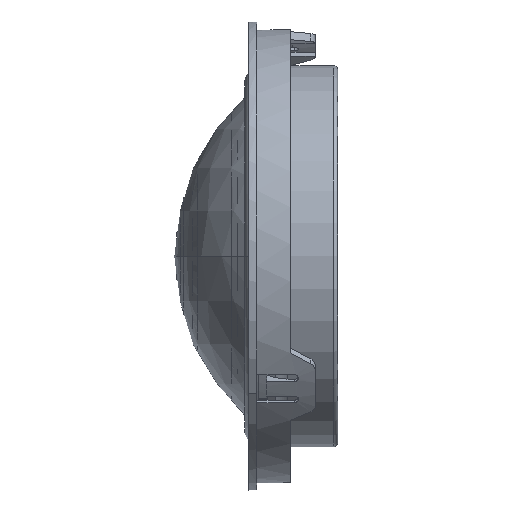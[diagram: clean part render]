
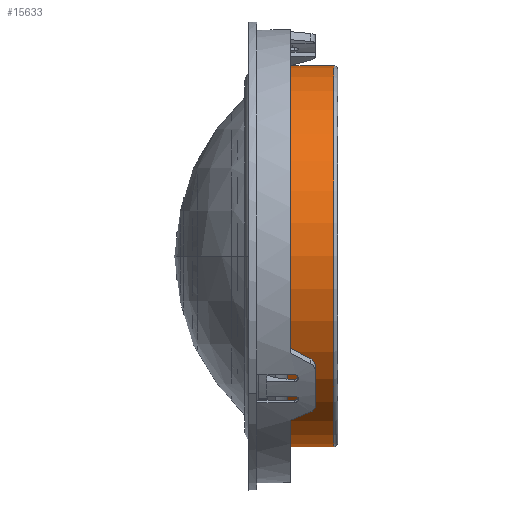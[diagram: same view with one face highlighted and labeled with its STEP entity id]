
A CAD part, left-side view. The second image highlights one B-rep face of the part: STEP entity #15633.
In plain terms, the highlighted cylindrical face has radius 45.85 mm (diameter 91.7 mm), a partial arc.
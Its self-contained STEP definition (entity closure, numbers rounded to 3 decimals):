
#52 = ORIENTED_EDGE ( 'NONE', *, *, #16705, .T. ) ;
#117 = AXIS2_PLACEMENT_3D ( 'NONE', #3924, #9311, #6710 ) ;
#576 = EDGE_LOOP ( 'NONE', ( #11556, #10840, #52, #14606 ) ) ;
#632 = CARTESIAN_POINT ( 'NONE',  ( 0., 1., 45.85 ) ) ;
#1058 = DIRECTION ( 'NONE',  ( 0., 0., 1. ) ) ;
#1531 = VERTEX_POINT ( 'NONE', #3994 ) ;
#1560 = CARTESIAN_POINT ( 'NONE',  ( 0., 12., -45.85 ) ) ;
#2329 = CIRCLE ( 'NONE', #2861, 45.85 ) ;
#2704 = CARTESIAN_POINT ( 'NONE',  ( 0., 12., 45.85 ) ) ;
#2861 = AXIS2_PLACEMENT_3D ( 'NONE', #8991, #8905, #1058 ) ;
#3479 = VERTEX_POINT ( 'NONE', #632 ) ;
#3816 = VERTEX_POINT ( 'NONE', #2704 ) ;
#3924 = CARTESIAN_POINT ( 'NONE',  ( 0., 30.203, 0. ) ) ;
#3994 = CARTESIAN_POINT ( 'NONE',  ( 0., 1., -45.85 ) ) ;
#4213 = DIRECTION ( 'NONE',  ( 0., 1., 0. ) ) ;
#5626 = EDGE_CURVE ( 'NONE', #1531, #6965, #10209, .T. ) ;
#6017 = DIRECTION ( 'NONE',  ( 0., 1., 0. ) ) ;
#6710 = DIRECTION ( 'NONE',  ( 0., 0., 1. ) ) ;
#6965 = VERTEX_POINT ( 'NONE', #1560 ) ;
#7139 = VECTOR ( 'NONE', #4213, 1000. ) ;
#7286 = AXIS2_PLACEMENT_3D ( 'NONE', #14895, #6017, #16350 ) ;
#8420 = CIRCLE ( 'NONE', #7286, 45.85 ) ;
#8529 = EDGE_CURVE ( 'NONE', #6965, #3816, #8420, .T. ) ;
#8846 = DIRECTION ( 'NONE',  ( 0., 1., 0. ) ) ;
#8905 = DIRECTION ( 'NONE',  ( 0., 1., 0. ) ) ;
#8991 = CARTESIAN_POINT ( 'NONE',  ( 0., 1., 0. ) ) ;
#9311 = DIRECTION ( 'NONE',  ( 0., 1., 0. ) ) ;
#9358 = CARTESIAN_POINT ( 'NONE',  ( 0., 30.203, 45.85 ) ) ;
#10209 = LINE ( 'NONE', #15364, #15728 ) ;
#10840 = ORIENTED_EDGE ( 'NONE', *, *, #13738, .T. ) ;
#11556 = ORIENTED_EDGE ( 'NONE', *, *, #5626, .F. ) ;
#13159 = LINE ( 'NONE', #9358, #7139 ) ;
#13738 = EDGE_CURVE ( 'NONE', #1531, #3479, #2329, .T. ) ;
#14129 = CYLINDRICAL_SURFACE ( 'NONE', #117, 45.85 ) ;
#14606 = ORIENTED_EDGE ( 'NONE', *, *, #8529, .F. ) ;
#14895 = CARTESIAN_POINT ( 'NONE',  ( 0., 12., 0. ) ) ;
#15364 = CARTESIAN_POINT ( 'NONE',  ( 0., 30.203, -45.85 ) ) ;
#15502 = FACE_OUTER_BOUND ( 'NONE', #576, .T. ) ;
#15633 = ADVANCED_FACE ( 'NONE', ( #15502 ), #14129, .T. ) ;
#15728 = VECTOR ( 'NONE', #8846, 1000. ) ;
#16350 = DIRECTION ( 'NONE',  ( 0., 0., 1. ) ) ;
#16705 = EDGE_CURVE ( 'NONE', #3479, #3816, #13159, .T. ) ;
